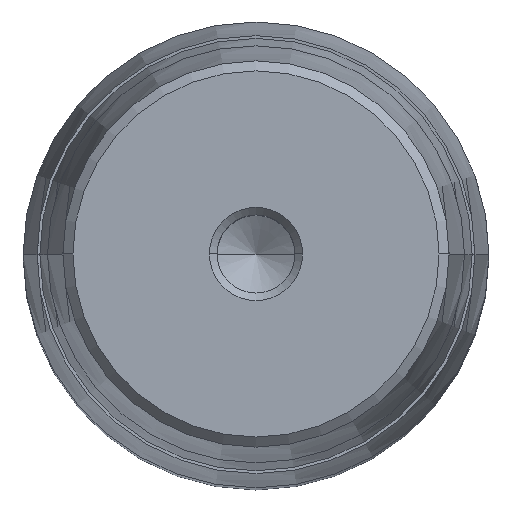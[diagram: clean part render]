
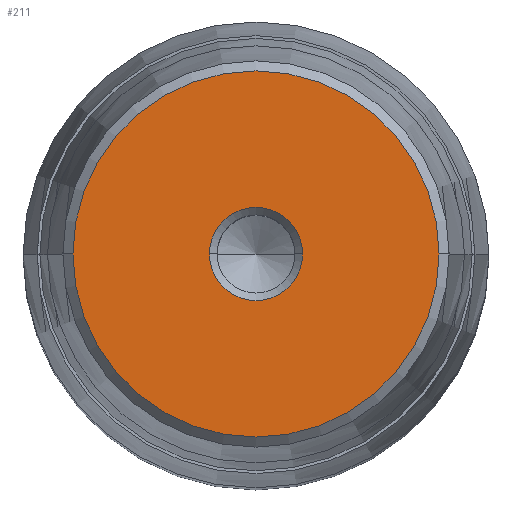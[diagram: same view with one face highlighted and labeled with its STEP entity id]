
A CAD part, top view. The second image highlights one B-rep face of the part: STEP entity #211.
In plain terms, the highlighted planar face has unit normal (0, 0, 1).
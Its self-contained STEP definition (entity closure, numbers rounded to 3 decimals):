
#136=CARTESIAN_POINT('Axis2P3D Location',(0.,0.,58.)) ;
#140=CARTESIAN_POINT('Vertex',(-5.,0.,58.)) ;
#142=CARTESIAN_POINT('Vertex',(5.,0.,58.)) ;
#179=CARTESIAN_POINT('Axis2P3D Location',(0.,5.,58.)) ;
#184=CARTESIAN_POINT('Axis2P3D Location',(0.,0.,58.)) ;
#188=CARTESIAN_POINT('Vertex',(-19.65,0.,58.)) ;
#190=CARTESIAN_POINT('Vertex',(19.65,0.,58.)) ;
#193=CARTESIAN_POINT('Axis2P3D Location',(0.,0.,58.)) ;
#202=CARTESIAN_POINT('Axis2P3D Location',(0.,0.,58.)) ;
#137=DIRECTION('Axis2P3D Direction',(0.,-0.,1.)) ;
#180=DIRECTION('Axis2P3D Direction',(0.,0.,-1.)) ;
#181=DIRECTION('Axis2P3D XDirection',(-1.,0.,0.)) ;
#185=DIRECTION('Axis2P3D Direction',(0.,0.,-1.)) ;
#194=DIRECTION('Axis2P3D Direction',(0.,0.,-1.)) ;
#203=DIRECTION('Axis2P3D Direction',(0.,0.,-1.)) ;
#138=AXIS2_PLACEMENT_3D('Circle Axis2P3D',#136,#137,$) ;
#182=AXIS2_PLACEMENT_3D('Plane Axis2P3D',#179,#180,#181) ;
#186=AXIS2_PLACEMENT_3D('Circle Axis2P3D',#184,#185,$) ;
#195=AXIS2_PLACEMENT_3D('Circle Axis2P3D',#193,#194,$) ;
#204=AXIS2_PLACEMENT_3D('Circle Axis2P3D',#202,#203,$) ;
#199=ORIENTED_EDGE('',*,*,#192,.F.) ;
#200=ORIENTED_EDGE('',*,*,#197,.F.) ;
#208=ORIENTED_EDGE('',*,*,#206,.T.) ;
#209=ORIENTED_EDGE('',*,*,#144,.T.) ;
#210=FACE_BOUND('',#207,.T.) ;
#211=ADVANCED_FACE('722-50x160x200',(#201,#210),#183,.F.) ;
#139=CIRCLE('generated circle',#138,5.) ;
#187=CIRCLE('generated circle',#186,19.65) ;
#196=CIRCLE('generated circle',#195,19.65) ;
#205=CIRCLE('generated circle',#204,5.) ;
#144=EDGE_CURVE('',#141,#143,#139,.F.) ;
#192=EDGE_CURVE('',#189,#191,#187,.T.) ;
#197=EDGE_CURVE('',#191,#189,#196,.T.) ;
#206=EDGE_CURVE('',#143,#141,#205,.T.) ;
#198=EDGE_LOOP('',(#199,#200)) ;
#207=EDGE_LOOP('',(#208,#209)) ;
#201=FACE_OUTER_BOUND('',#198,.T.) ;
#183=PLANE('Plane',#182) ;
#141=VERTEX_POINT('',#140) ;
#143=VERTEX_POINT('',#142) ;
#189=VERTEX_POINT('',#188) ;
#191=VERTEX_POINT('',#190) ;
